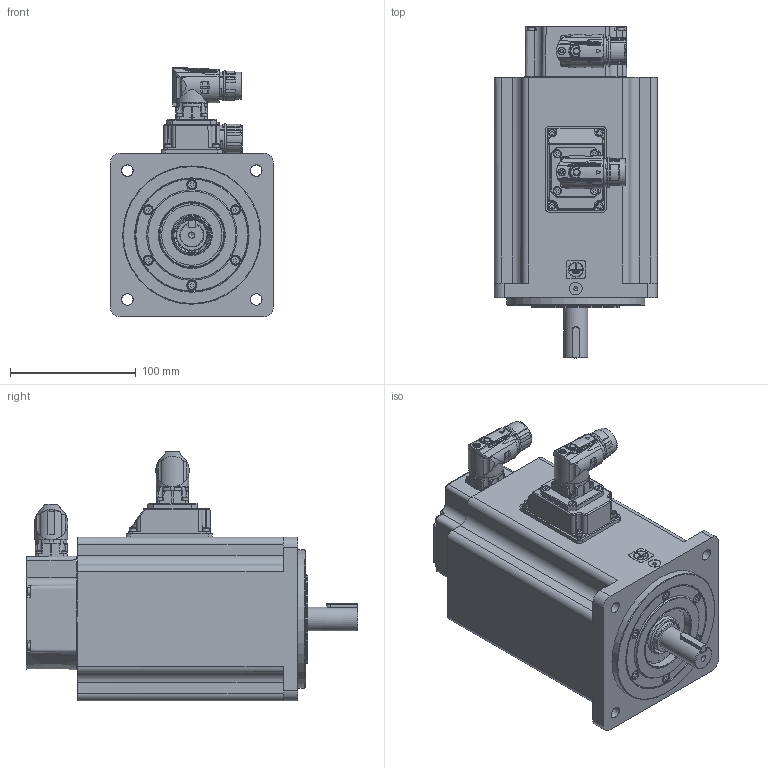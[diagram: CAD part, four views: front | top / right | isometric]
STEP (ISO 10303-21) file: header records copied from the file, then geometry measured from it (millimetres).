
FILE_DESCRIPTION( ( 'Unknown' ), '1' );
FILE_NAME( 'U:/05_Progetto TCE/010-TCE motor drawings/TCE130/Vuoti/TCE130 5D XX 3 A2 1 C2.stp', 'Unknown', ( 'Unknown' ), ( 'Unknown' ), 'PSStep 17.0.49', 'Unknown', ' ' );
FILE_SCHEMA( ( 'AUTOMOTIVE_DESIGN { 1 0 10303 214 1 1 1 1 }' ) );
Length unit declared in the file: millimetre
Products named in the file (13): 003103001510
Bounding box: 130.3 x 264 x 198.5 mm (x, y, z)
Volume: 1219001.5 mm3; surface area: 359998.1 mm2
Topology: 13 solids, 90 shells, 2972 faces, 7422 edges, 4787 vertices
Faces by surface type: plane 1441, cylinder 724, cone 297, bspline 230, torus 161, sphere 81, extrusion 38
Full cylindrical faces by diameter (mm): 0.5 x1, 1 x21, 1.2 x17, 1.4 x4, 2 x4, 2.013 x4, 2.2 x2, 2.459 x24, 2.5 x10, 2.6 x4, 2.8 x4, 3 x28, 3.242 x30, 3.5 x8, 4 x15, 4.134 x8, 4.4 x4, 4.5 x8, 4.7 x4, 4.917 x2, 5 x8, 5.5 x18, 5.8 x1, 5.9 x2, 6.8 x1, 7 x10, 8 x15, 8.5 x8, 10 x1, 10.5 x8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
Entity records: 122970 total; most frequent: CARTESIAN_POINT 37816, DIRECTION 13064, ORIENTED_EDGE 12696, EDGE_CURVE 6348, AXIS2_PLACEMENT_3D 4912, VERTEX_POINT 4504, EDGE_LOOP 3957, FACE_OUTER_BOUND 3440
